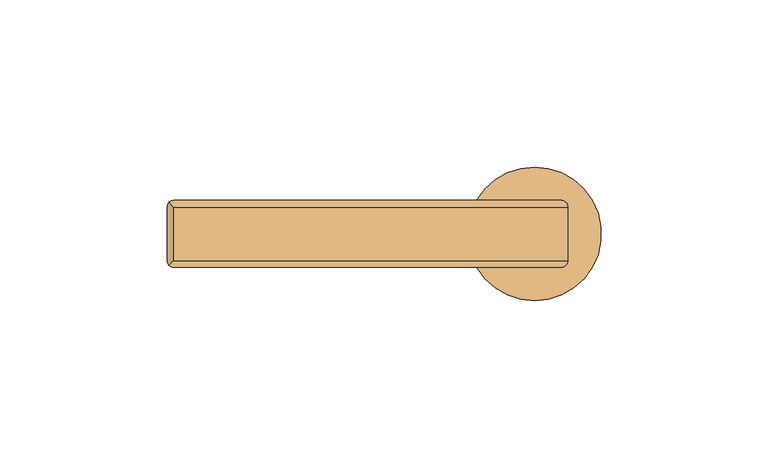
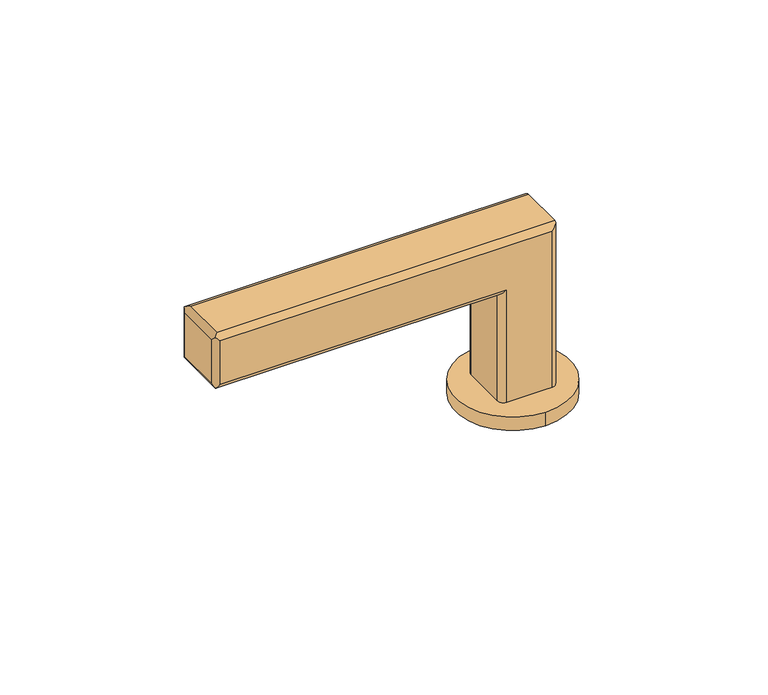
"""IFC4 building model written with IfcOpenShell, lengths in millimetres: door geometry, VERTI - kování M&T : KVADRA."""

from ifc_helpers import new_model, si_unit, point, frame, origin, origin_with_axes, origin_2d, place, context, project, spatial, circle_curve, ellipse_curve, trimmed, segment, composite_curve, outline, extrude, source, transform, mapped, element, save
from ifc_brep_helpers import plane_surface, cylinder_surface, advanced_brep


def door_dc1365b6(model_context):
    return source(origin(), model_context, "Body", "SolidModel", [
        extrude(outline(composite_curve([segment(trimmed(circle_curve(origin_2d(), 20.0), [point((0.0, 20.0))], [point((0.0, -20.0))], False, "CARTESIAN"), True, "CONTINUOUS"), segment(trimmed(circle_curve(origin_2d(), 20.0), [point((0.0, -20.0))], [point((0.0, 20.0))], False, "CARTESIAN"), True, "CONTINUOUS")], self_intersect=False)), origin_with_axes(), (0.0, 0.0, 1.0), 5.0),
        advanced_brep(
        [(-8.0, 10.0, 0.0), (8.0, 10.0, 0.0), (10.0, 8.0, 0.0), (10.0, -8.0, 0.0), (8.0, -10.0, 0.0), (-8.0, -10.0, 0.0), (-10.0, -8.0, 0.0), (-10.0, 8.0, 0.0), (-8.0, 10.0, 47.0), (-108.0, 10.0, 47.0), (-108.0, 10.0, 63.0), (8.0, 10.0, 63.0), (10.0, 8.0, 65.0), (10.0, -8.0, 65.0), (8.0, -10.0, 63.0), (-108.0, -10.0, 63.0), (-108.0, -10.0, 47.0), (-8.0, -10.0, 47.0), (-10.0, -8.0, 45.0), (-10.0, 8.0, 45.0), (-110.0, 8.0, 47.0), (-110.0, -8.0, 47.0), (-110.0, -8.0, 63.0), (-110.0, 8.0, 63.0), (-109.4142136, 9.4142136, 64.4142136), (-108.0, 8.0, 65.0), (-108.0, -8.0, 65.0), (-109.4142136, -9.4142136, 64.4142136), (-109.4142136, -9.4142136, 45.5857864), (-108.0, -8.0, 45.0), (-108.0, 8.0, 45.0), (-109.4142136, 9.4142136, 45.5857864)],
        [
            (0, 1),
            (1, 2, circle_curve(frame((8.0, 8.0, 0.0), z_axis=(0.0, 0.0, -1.0), x_axis=(1.0, 0.0, 0.0)), 2.0)),
            (2, 3),
            (3, 4, circle_curve(frame((8.0, -8.0, 0.0), z_axis=(0.0, 0.0, -1.0), x_axis=(1.0, 0.0, 0.0)), 2.0)),
            (4, 5),
            (5, 6, circle_curve(frame((-8.0, -8.0, 0.0), z_axis=(0.0, 0.0, -1.0), x_axis=(1.0, 0.0, 0.0)), 2.0)),
            (6, 7),
            (7, 0, circle_curve(frame((-8.0, 8.0, 0.0), z_axis=(0.0, 0.0, -1.0), x_axis=(1.0, 0.0, 0.0)), 2.0)),
            (0, 8),
            (8, 9),
            (9, 10),
            (10, 11),
            (11, 1),
            (11, 12, ellipse_curve(frame((8.0, 8.0, 63.0), z_axis=(0.7071067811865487, 0.0, -0.7071067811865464), x_axis=(-0.7071067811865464, 0.0, -0.7071067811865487)), 2.8284271, 2.0)),
            (12, 2),
            (12, 13),
            (13, 3),
            (13, 14, ellipse_curve(frame((8.0, -8.0, 63.0), z_axis=(0.7071067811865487, 0.0, -0.7071067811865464), x_axis=(-0.7071067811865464, 0.0, -0.7071067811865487)), 2.8284271, 2.0)),
            (14, 4),
            (14, 15),
            (15, 16),
            (16, 17),
            (17, 5),
            (17, 18, ellipse_curve(frame((-8.0, -8.0, 47.0), z_axis=(0.7071067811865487, 0.0, -0.7071067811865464), x_axis=(-0.7071067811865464, 0.0, -0.7071067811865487)), 2.8284271, 2.0)),
            (18, 6),
            (18, 19),
            (19, 7),
            (19, 8, ellipse_curve(frame((-8.0, 8.0, 47.0), z_axis=(0.7071067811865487, 0.0, -0.7071067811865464), x_axis=(-0.7071067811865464, 0.0, -0.7071067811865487)), 2.8284271, 2.0)),
            (20, 21),
            (21, 22),
            (22, 23),
            (23, 20),
            (10, 24, ellipse_curve(frame((-108.0, 8.0, 63.0), z_axis=(0.7071067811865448, 0.0, 0.7071067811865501), x_axis=(0.7071067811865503, 0.0, -0.7071067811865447)), 2.8284271, 2.0)),
            (24, 25, ellipse_curve(frame((-108.0, 8.0, 63.0), z_axis=(0.7071067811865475, 0.7071067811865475, 0.0), x_axis=(0.7071067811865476, -0.7071067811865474, 0.0)), 2.8284271, 2.0)),
            (25, 12),
            (25, 26),
            (26, 13),
            (26, 27, ellipse_curve(frame((-108.0, -8.0, 63.0), z_axis=(0.7071067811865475, -0.7071067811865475, 0.0), x_axis=(0.7071067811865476, 0.7071067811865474, 0.0)), 2.8284271, 2.0)),
            (27, 15, ellipse_curve(frame((-108.0, -8.0, 63.0), z_axis=(0.7071067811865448, 0.0, 0.7071067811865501), x_axis=(0.7071067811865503, 0.0, -0.7071067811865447)), 2.8284271, 2.0)),
            (16, 28, ellipse_curve(frame((-108.0, -8.0, 47.0), z_axis=(0.7071067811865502, 0.0, -0.7071067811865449), x_axis=(0.7071067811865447, 0.0, 0.7071067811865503)), 2.8284271, 2.0)),
            (28, 29, ellipse_curve(frame((-108.0, -8.0, 47.0), z_axis=(0.7071067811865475, -0.7071067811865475, 0.0), x_axis=(0.7071067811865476, 0.7071067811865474, 0.0)), 2.8284271, 2.0)),
            (29, 18),
            (29, 30),
            (30, 19),
            (30, 31, ellipse_curve(frame((-108.0, 8.0, 47.0), z_axis=(0.7071067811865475, 0.7071067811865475, 0.0), x_axis=(0.7071067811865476, -0.7071067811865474, 0.0)), 2.8284271, 2.0)),
            (31, 9, ellipse_curve(frame((-108.0, 8.0, 47.0), z_axis=(0.7071067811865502, 0.0, -0.7071067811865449), x_axis=(0.7071067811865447, 0.0, 0.7071067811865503)), 2.8284271, 2.0)),
            (28, 21, ellipse_curve(frame((-108.0, -8.0, 47.0), z_axis=(0.0, 0.7071067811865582, -0.7071067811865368), x_axis=(0.0, -0.7071067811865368, -0.7071067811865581)), 2.8284271, 2.0)),
            (20, 31, ellipse_curve(frame((-108.0, 8.0, 47.0), z_axis=(0.0, -0.7071067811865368, -0.7071067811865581), x_axis=(0.0, -0.7071067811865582, 0.7071067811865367)), 2.8284271, 2.0)),
            (27, 22, ellipse_curve(frame((-108.0, -8.0, 63.0), z_axis=(0.0, -0.7071067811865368, -0.7071067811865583), x_axis=(0.0, -0.7071067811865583, 0.7071067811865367)), 2.8284271, 2.0)),
            (24, 23, ellipse_curve(frame((-108.0, 8.0, 63.0), z_axis=(0.0, -0.7071067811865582, 0.7071067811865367), x_axis=(0.0, 0.7071067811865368, 0.7071067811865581)), 2.8284271, 2.0)),
        ],
        [
            plane_surface(frame((0.0, 0.0, 0.0), z_axis=(0.0, 0.0, -1.0), x_axis=(0.0, 1.0, 0.0))),
            plane_surface(frame((-8.0, 10.0, 0.0), z_axis=(0.0, 1.0, 0.0), x_axis=(0.0, 0.0, 1.0))),
            cylinder_surface(frame((8.0, 8.0, 0.0), z_axis=(0.0, 0.0, -1.0), x_axis=(1.0, 0.0, 0.0)), 2.0),
            plane_surface(frame((10.0, 8.0, 0.0), z_axis=(1.0, 0.0, 0.0), x_axis=(0.0, 0.0, 1.0))),
            cylinder_surface(frame((8.0, -8.0, 0.0), z_axis=(0.0, 0.0, -1.0), x_axis=(1.0, 0.0, 0.0)), 2.0),
            plane_surface(frame((8.0, -10.0, 0.0), z_axis=(0.0, -1.0, 0.0), x_axis=(0.0, 0.0, 1.0))),
            cylinder_surface(frame((-8.0, -8.0, 0.0), z_axis=(0.0, 0.0, -1.0), x_axis=(1.0, 0.0, 0.0)), 2.0),
            plane_surface(frame((-10.0, -8.0, 0.0), z_axis=(-1.0, 0.0, 0.0), x_axis=(0.0, 0.0, 1.0))),
            cylinder_surface(frame((-8.0, 8.0, 0.0), z_axis=(0.0, 0.0, -1.0), x_axis=(1.0, 0.0, 0.0)), 2.0),
            plane_surface(frame((-110.0, 0.0, 55.0), z_axis=(-1.0, 0.0, 0.0), x_axis=(0.0, 1.0, 0.0))),
            cylinder_surface(frame((0.0, 8.0, 63.0), z_axis=(1.0, 0.0, 0.0), x_axis=(0.0, 0.0, 1.0)), 2.0),
            plane_surface(frame((10.0, 8.0, 65.0), z_axis=(0.0, 0.0, 1.0), x_axis=(-1.0, 0.0, 0.0))),
            cylinder_surface(frame((0.0, -8.0, 63.0), z_axis=(1.0, 0.0, 0.0), x_axis=(0.0, 0.0, 1.0)), 2.0),
            cylinder_surface(frame((0.0, -8.0, 47.0), z_axis=(1.0, 0.0, 0.0), x_axis=(0.0, 0.0, 1.0)), 2.0),
            plane_surface(frame((-10.0, -8.0, 45.0), z_axis=(0.0, 0.0, -1.0), x_axis=(-1.0, 0.0, 0.0))),
            cylinder_surface(frame((0.0, 8.0, 47.0), z_axis=(1.0, 0.0, 0.0), x_axis=(0.0, 0.0, 1.0)), 2.0),
            cylinder_surface(frame((-108.0, 10.0, 47.0), z_axis=(0.0, -1.0, 0.0), x_axis=(1.0, 0.0, 0.0)), 2.0),
            cylinder_surface(frame((-108.0, -8.0, 45.0), z_axis=(0.0, 0.0, 1.0), x_axis=(1.0, 0.0, 0.0)), 2.0),
            cylinder_surface(frame((-108.0, -10.0, 63.0), z_axis=(0.0, 1.0, 0.0), x_axis=(1.0, 0.0, 0.0)), 2.0),
            cylinder_surface(frame((-108.0, 8.0, 65.0), z_axis=(0.0, 0.0, -1.0), x_axis=(1.0, 0.0, 0.0)), 2.0),
        ],
        [
            (0, [[1, 2, 3, 4, 5, 6, 7, 8]]),
            (1, [[-1, 9, 10, 11, 12, 13]]),
            (2, [[-2, -13, 14, 15]]),
            (3, [[-3, -15, 16, 17]]),
            (4, [[-4, -17, 18, 19]]),
            (5, [[-5, -19, 20, 21, 22, 23]]),
            (6, [[-6, -23, 24, 25]]),
            (7, [[-7, -25, 26, 27]]),
            (8, [[-8, -27, 28, -9]]),
            (9, [[29, 30, 31, 32]]),
            (10, [[-14, -12, 33, 34, 35]]),
            (11, [[-16, -35, 36, 37]]),
            (12, [[-18, -37, 38, 39, -20]]),
            (13, [[-24, -22, 40, 41, 42]]),
            (14, [[-26, -42, 43, 44]]),
            (15, [[-28, -44, 45, 46, -10]]),
            (16, [[47, -29, 48, -45, -43, -41]]),
            (17, [[-47, -40, -21, -39, 49, -30]]),
            (18, [[-49, -38, -36, -34, 50, -31]]),
            (19, [[-50, -33, -11, -46, -48, -32]]),
        ],
    ),
    ])


if __name__ == "__main__":
    model = new_model("IFC4")
    model_context = context("Model", 3, world=origin())
    ifc_project = project(units=[si_unit("LENGTHUNIT", "METRE", prefix="MILLI")], contexts=[model_context])
    site = spatial("IfcSite", under=ifc_project)
    building = spatial("IfcBuilding", under=site)
    placement = place(None, origin())
    door_shape = door_dc1365b6(model_context)
    element("IfcDoor", 1, ObjectType="VERTI - kování M&T : KVADRA", at=placement, inside=building, context=model_context, shape_type="MappedRepresentation", body=[
        mapped(door_shape, transform((0.0, 0.0, 0.0), x_axis=(1.0, 0.0, 0.0), y_axis=(0.0, 1.0, 0.0), z_axis=(0.0, 0.0, 1.0))),
    ])
    save(model, "model.ifc")
